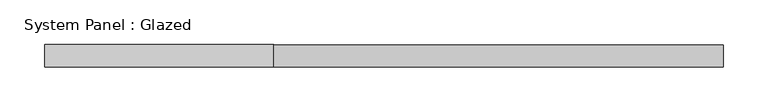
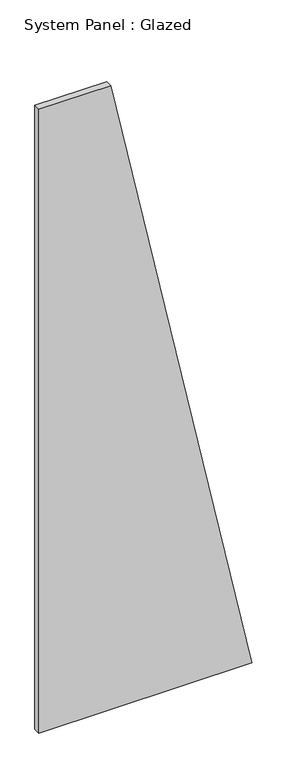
"""IFC4 building model written with IfcOpenShell, lengths in millimetres: plate geometry, System Panel : Glazed."""

from ifc_helpers import new_model, si_unit, frame, origin, place, context, project, spatial, polyline, outline, extrude, source, transform, mapped, element, save


def system_panel_glazed_6285a200(model_context):
    return source(origin(), model_context, "Body", "SweptSolid", [
        extrude(outline(polyline([(0.0, -379.3128402), (0.0, 379.3128402), (2350.0, -123.2132291), (2350.0, -379.3128402), (0.0, -379.3128402)])), frame((0.0, -49.5, 0.0), z_axis=(0.0, 1.0, 0.0), x_axis=(0.0, 0.0, 1.0)), (0.0, 0.0, 1.0), 25.0),
    ])


if __name__ == "__main__":
    model = new_model("IFC4")
    model_context = context("Model", 3, world=origin())
    ifc_project = project(units=[si_unit("LENGTHUNIT", "METRE", prefix="MILLI")], contexts=[model_context])
    site = spatial("IfcSite", under=ifc_project)
    building = spatial("IfcBuilding", under=site)
    placement = place(None, origin())
    system_panel_glazed_shape = system_panel_glazed_6285a200(model_context)
    element("IfcPlate", 1, ObjectType="System Panel : Glazed", at=placement, inside=building, context=model_context, shape_type="MappedRepresentation", body=[
        mapped(system_panel_glazed_shape, transform((0.0, 0.0, 0.0), x_axis=(1.0, 0.0, 0.0), y_axis=(0.0, 1.0, 0.0), z_axis=(0.0, 0.0, 1.0))),
    ])
    save(model, "model.ifc")
